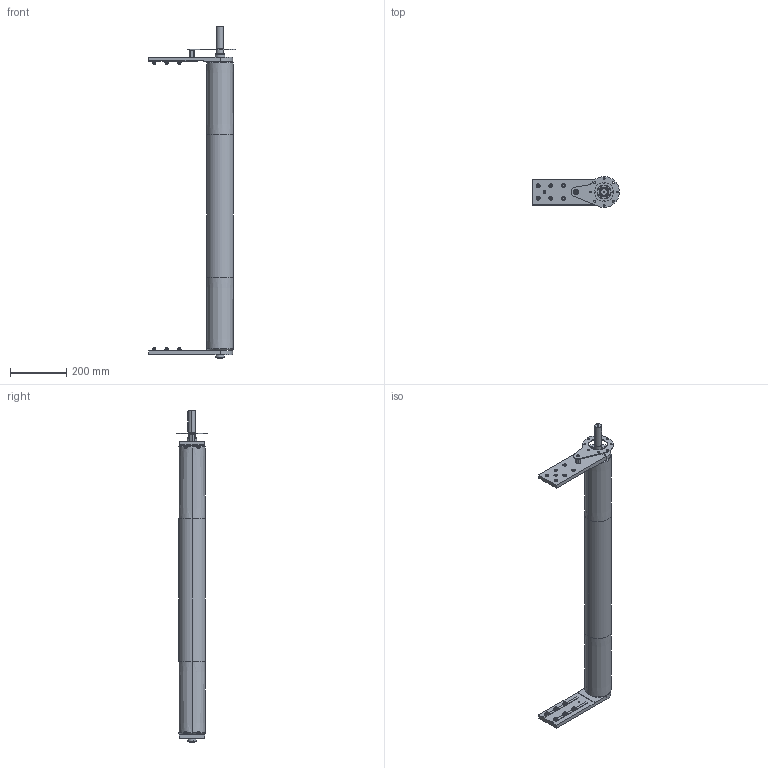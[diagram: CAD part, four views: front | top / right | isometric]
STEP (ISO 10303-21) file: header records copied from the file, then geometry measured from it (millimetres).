
FILE_DESCRIPTION (( 'STEP AP203' ), '1' );
FILE_NAME ('084.095.KD.49.1000.STEP', '2014-11-18T15:09:31', ( '' ), ( '' ), 'SwSTEP 2.0', 'SolidWorks 2012', '' );
FILE_SCHEMA (( 'CONFIG_CONTROL_DESIGN' ));
Length unit declared in the file: millimetre
Products named in the file (1): 084.095.KD.49.1000
Bounding box: 310 x 109.87 x 1184.5 mm (x, y, z)
Surface area: 505619.3 mm2 (no closed solid volume)
Topology: 0 solids, 53 shells, 501 faces, 1583 edges, 1108 vertices
Faces by surface type: plane 286, cylinder 118, torus 52, cone 36, bspline 7, sphere 2
Entity records: 18528 total; most frequent: CARTESIAN_POINT 4498, DIRECTION 2967, ORIENTED_EDGE 2562, EDGE_CURVE 1579, VERTEX_POINT 1106, AXIS2_PLACEMENT_3D 1079, LINE 809, VECTOR 809
